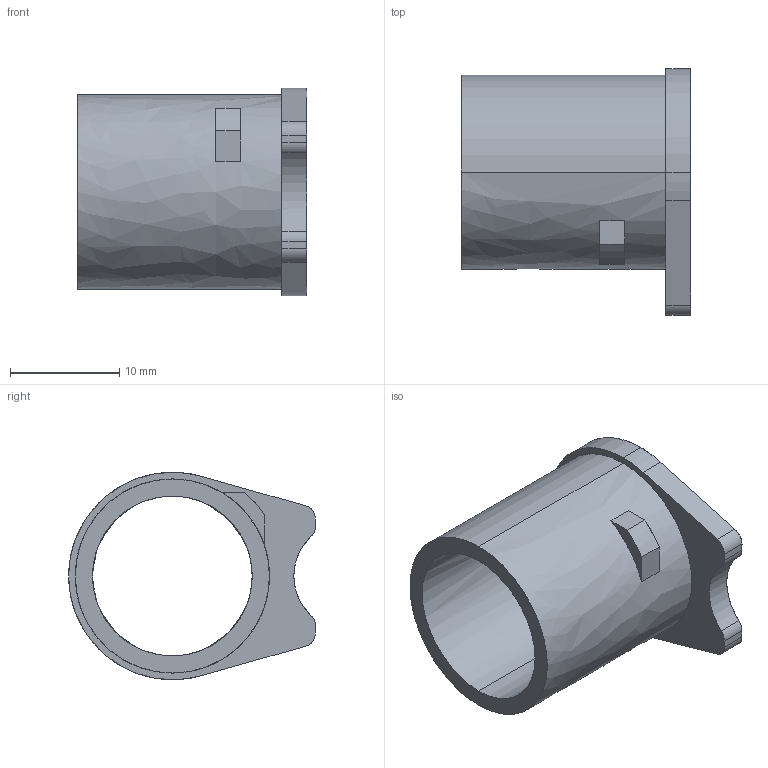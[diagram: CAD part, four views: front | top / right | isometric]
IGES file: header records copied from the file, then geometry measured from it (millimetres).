
Start section: SolidWorks IGES file using analytic representation for surfaces
Global section: file name: \\PSSILO\catalogs\CONTENTCENTRAL\BARREL BUSHING\Cache\00B090E2-88D3-4328-B73E-3CCDD95F5ECD.IGS; native system: SolidWorks 2009; preprocessor: SolidWorks 2009; author: partstream; date: 090220.041553; units: inch
Bounding box: 20.98 x 22.57 x 18.97 mm (x, y, z)
Surface area: 2519.4 mm2 (no closed solid volume)
Topology: 0 solids, 0 shells, 28 faces, 482 edges, 482 vertices
Faces by surface type: bspline 15, revolution 13
